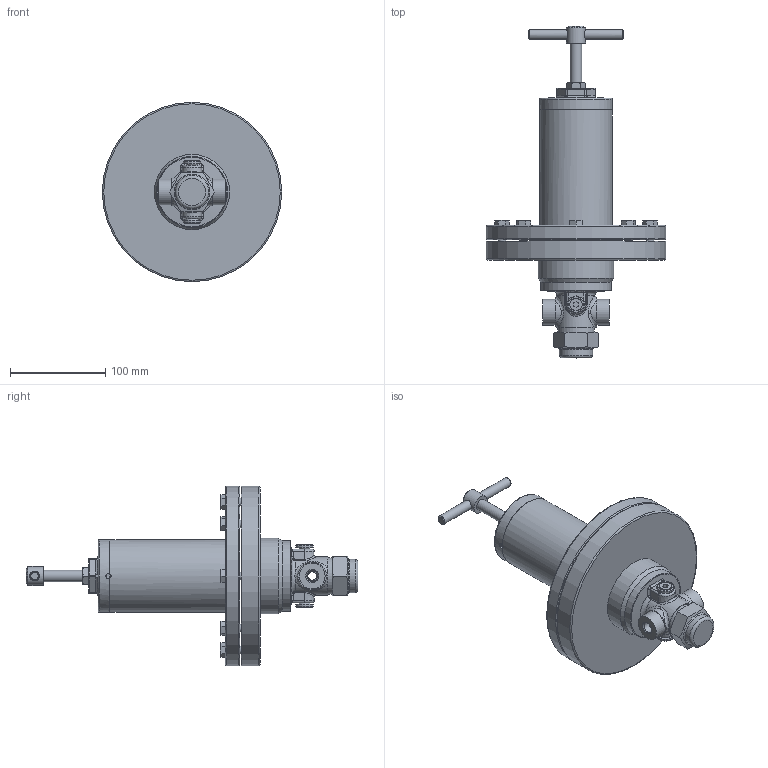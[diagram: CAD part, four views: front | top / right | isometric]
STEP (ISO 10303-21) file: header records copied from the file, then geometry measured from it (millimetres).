
FILE_DESCRIPTION(/* description */ (''),/* implementation_level */ '2;1');
FILE_NAME(/* name */ 'U:/AirCom-Produktdokumentation/Druckregler/R74/Zeichnungen/CAD-Aircom/3D/B-R74-02x.step',/* time_stamp */ '2022-06-20T10:39:43+02:00',/* author */ (''),/* organization */ (''),/* preprocessor_version */ 'ST-DEVELOPER v19',/* originating_system */ 'Autodesk Translation Framework v11.7.0.108',/* authorisation */ '');
FILE_SCHEMA (('AUTOMOTIVE_DESIGN { 1 0 10303 214 3 1 1 }'));
Length unit declared in the file: millimetre
Products named in the file (1): Typ_74-BG_0-G014-G014-MØ190
Bounding box: 188 x 348 x 188 mm (x, y, z)
Volume: 945432.6 mm3; surface area: 280435.8 mm2
Topology: 20 solids, 20 shells, 507 faces, 1144 edges, 703 vertices
Faces by surface type: plane 167, cone 155, cylinder 111, torus 48, bspline 26
Full cylindrical faces by diameter (mm): 5.5 x1, 6.2 x1, 6.65 x8, 8 x8, 8.6 x8, 9 x2, 10 x2, 10.1 x1, 11.45 x4, 12 x2, 13.16 x2, 13.7 x2, 18 x2, 20 x1, 27 x2, 30 x2, 31.875 x1, 35 x1, 38 x2, 38.5 x1, 41 x1, 69.7 x3, 70.2 x1, 70.4 x1, 72 x7, 72.111 x2, 72.5 x1, 74.5 x1, 76 x2, 79 x1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
Entity records: 19308 total; most frequent: CARTESIAN_POINT 8186, DIRECTION 2389, ORIENTED_EDGE 2270, EDGE_CURVE 1135, AXIS2_PLACEMENT_3D 1011, VERTEX_POINT 703, EDGE_LOOP 582, CIRCLE 513
